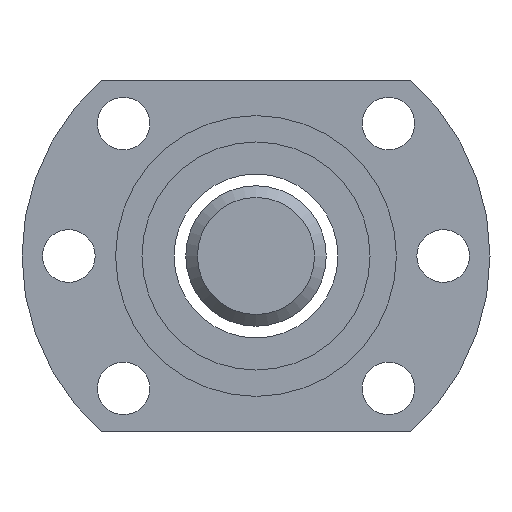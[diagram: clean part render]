
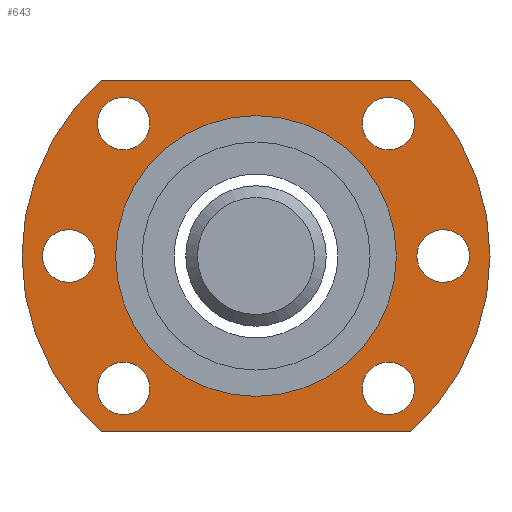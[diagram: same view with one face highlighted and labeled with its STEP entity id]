
A CAD part, left-side view. The second image highlights one B-rep face of the part: STEP entity #643.
In plain terms, the highlighted planar face has unit normal (-1, 0, 0).
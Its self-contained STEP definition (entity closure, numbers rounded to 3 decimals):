
#3 = EDGE_CURVE ( 'NONE', #437, #880, #48, .T. ) ;
#7 = VERTEX_POINT ( 'NONE', #281 ) ;
#15 = CARTESIAN_POINT ( 'NONE',  ( -68.892, -80.181, -34.589 ) ) ;
#28 = CARTESIAN_POINT ( 'NONE',  ( -68.892, -57.554, -34.589 ) ) ;
#35 = DIRECTION ( 'NONE',  ( 0., 0., 1. ) ) ;
#48 = LINE ( 'NONE', #589, #509 ) ;
#50 = CIRCLE ( 'NONE', #206, 2.25 ) ;
#52 = DIRECTION ( 'NONE',  ( 0., 0., 1. ) ) ;
#55 = EDGE_LOOP ( 'NONE', ( #626 ) ) ;
#56 = CARTESIAN_POINT ( 'NONE',  ( -68.892, -55.639, -8.275 ) ) ;
#69 = ORIENTED_EDGE ( 'NONE', *, *, #709, .F. ) ;
#72 = DIRECTION ( 'NONE',  ( 0., 0., -1. ) ) ;
#74 = EDGE_CURVE ( 'NONE', #76, #76, #330, .T. ) ;
#76 = VERTEX_POINT ( 'NONE', #90 ) ;
#82 = EDGE_CURVE ( 'NONE', #1000, #1000, #490, .T. ) ;
#90 = CARTESIAN_POINT ( 'NONE',  ( -68.892, -52.867, -21.025 ) ) ;
#104 = CARTESIAN_POINT ( 'NONE',  ( -68.892, -82.096, -8.275 ) ) ;
#106 = VERTEX_POINT ( 'NONE', #946 ) ;
#121 = ORIENTED_EDGE ( 'NONE', *, *, #3, .T. ) ;
#123 = CARTESIAN_POINT ( 'NONE',  ( -68.892, -57.554, -9.711 ) ) ;
#143 = VERTEX_POINT ( 'NONE', #534 ) ;
#164 = DIRECTION ( 'NONE',  ( -1., 0., 0. ) ) ;
#185 = ORIENTED_EDGE ( 'NONE', *, *, #1047, .T. ) ;
#195 = AXIS2_PLACEMENT_3D ( 'NONE', #1080, #1071, #438 ) ;
#206 = AXIS2_PLACEMENT_3D ( 'NONE', #15, #387, #1030 ) ;
#252 = EDGE_CURVE ( 'NONE', #1110, #1110, #1194, .T. ) ;
#256 = CIRCLE ( 'NONE', #195, 20. ) ;
#281 = CARTESIAN_POINT ( 'NONE',  ( -68.892, -57.554, -32.339 ) ) ;
#296 = DIRECTION ( 'NONE',  ( 0., 0., 1. ) ) ;
#306 = CARTESIAN_POINT ( 'NONE',  ( -68.892, -57.554, -11.961 ) ) ;
#326 = EDGE_LOOP ( 'NONE', ( #69 ) ) ;
#330 = CIRCLE ( 'NONE', #1018, 2.25 ) ;
#353 = CARTESIAN_POINT ( 'NONE',  ( -68.892, -68.867, -23.275 ) ) ;
#359 = FACE_BOUND ( 'NONE', #326, .T. ) ;
#372 = FACE_BOUND ( 'NONE', #55, .T. ) ;
#383 = DIRECTION ( 'NONE',  ( 0., 0., 1. ) ) ;
#384 = CARTESIAN_POINT ( 'NONE',  ( -68.892, -84.867, -21.025 ) ) ;
#385 = AXIS2_PLACEMENT_3D ( 'NONE', #306, #488, #35 ) ;
#387 = DIRECTION ( 'NONE',  ( 1., 0., 0. ) ) ;
#405 = DIRECTION ( 'NONE',  ( -1., 0., 0. ) ) ;
#437 = VERTEX_POINT ( 'NONE', #1076 ) ;
#438 = DIRECTION ( 'NONE',  ( 0., 0., -1. ) ) ;
#442 = CARTESIAN_POINT ( 'NONE',  ( -68.892, -80.181, -9.711 ) ) ;
#443 = ORIENTED_EDGE ( 'NONE', *, *, #543, .T. ) ;
#456 = CARTESIAN_POINT ( 'NONE',  ( -68.892, -68.867, -35.275 ) ) ;
#477 = ORIENTED_EDGE ( 'NONE', *, *, #822, .T. ) ;
#483 = CARTESIAN_POINT ( 'NONE',  ( -68.892, -68.867, -23.275 ) ) ;
#485 = DIRECTION ( 'NONE',  ( 1., 0., 0. ) ) ;
#488 = DIRECTION ( 'NONE',  ( -1., 0., 0. ) ) ;
#490 = CIRCLE ( 'NONE', #975, 12. ) ;
#501 = CIRCLE ( 'NONE', #1190, 20. ) ;
#509 = VECTOR ( 'NONE', #799, 1000. ) ;
#514 = DIRECTION ( 'NONE',  ( 1., 0., 0. ) ) ;
#515 = EDGE_LOOP ( 'NONE', ( #686, #121, #477, #443 ) ) ;
#534 = CARTESIAN_POINT ( 'NONE',  ( -68.892, -82.096, -8.275 ) ) ;
#543 = EDGE_CURVE ( 'NONE', #143, #829, #919, .T. ) ;
#561 = AXIS2_PLACEMENT_3D ( 'NONE', #483, #764, #665 ) ;
#564 = DIRECTION ( 'NONE',  ( -1., 0., 0. ) ) ;
#572 = VERTEX_POINT ( 'NONE', #384 ) ;
#589 = CARTESIAN_POINT ( 'NONE',  ( -68.892, -55.639, -38.275 ) ) ;
#626 = ORIENTED_EDGE ( 'NONE', *, *, #676, .F. ) ;
#643 = ADVANCED_FACE ( 'NONE', ( #924, #1211, #359, #372, #729, #1014, #861, #1055 ), #841, .T. ) ;
#648 = CIRCLE ( 'NONE', #963, 2.25 ) ;
#652 = CIRCLE ( 'NONE', #385, 2.25 ) ;
#660 = ORIENTED_EDGE ( 'NONE', *, *, #252, .T. ) ;
#665 = DIRECTION ( 'NONE',  ( 0., 0., 1. ) ) ;
#676 = EDGE_CURVE ( 'NONE', #854, #854, #652, .T. ) ;
#686 = ORIENTED_EDGE ( 'NONE', *, *, #858, .T. ) ;
#689 = CIRCLE ( 'NONE', #846, 2.25 ) ;
#700 = DIRECTION ( 'NONE',  ( 0., 0., -1. ) ) ;
#709 = EDGE_CURVE ( 'NONE', #7, #7, #689, .T. ) ;
#729 = FACE_BOUND ( 'NONE', #1063, .T. ) ;
#737 = AXIS2_PLACEMENT_3D ( 'NONE', #1137, #485, #296 ) ;
#764 = DIRECTION ( 'NONE',  ( -1., 0., 0. ) ) ;
#784 = CARTESIAN_POINT ( 'NONE',  ( -68.892, -82.096, -38.275 ) ) ;
#799 = DIRECTION ( 'NONE',  ( 0., -1., 0. ) ) ;
#820 = EDGE_LOOP ( 'NONE', ( #1164 ) ) ;
#822 = EDGE_CURVE ( 'NONE', #880, #143, #501, .T. ) ;
#829 = VERTEX_POINT ( 'NONE', #56 ) ;
#835 = EDGE_LOOP ( 'NONE', ( #185 ) ) ;
#841 = PLANE ( 'NONE',  #561 ) ;
#846 = AXIS2_PLACEMENT_3D ( 'NONE', #28, #405, #383 ) ;
#854 = VERTEX_POINT ( 'NONE', #123 ) ;
#858 = EDGE_CURVE ( 'NONE', #829, #437, #256, .T. ) ;
#861 = FACE_BOUND ( 'NONE', #820, .T. ) ;
#880 = VERTEX_POINT ( 'NONE', #784 ) ;
#893 = ORIENTED_EDGE ( 'NONE', *, *, #1163, .T. ) ;
#896 = DIRECTION ( 'NONE',  ( 0., 0., 1. ) ) ;
#919 = LINE ( 'NONE', #104, #1011 ) ;
#924 = FACE_BOUND ( 'NONE', #959, .T. ) ;
#946 = CARTESIAN_POINT ( 'NONE',  ( -68.892, -80.181, -32.339 ) ) ;
#958 = CARTESIAN_POINT ( 'NONE',  ( -68.892, -84.867, -23.275 ) ) ;
#959 = EDGE_LOOP ( 'NONE', ( #660 ) ) ;
#963 = AXIS2_PLACEMENT_3D ( 'NONE', #958, #514, #52 ) ;
#975 = AXIS2_PLACEMENT_3D ( 'NONE', #353, #564, #72 ) ;
#982 = CARTESIAN_POINT ( 'NONE',  ( -68.892, -68.867, -23.275 ) ) ;
#998 = CARTESIAN_POINT ( 'NONE',  ( -68.892, -52.867, -23.275 ) ) ;
#1000 = VERTEX_POINT ( 'NONE', #456 ) ;
#1011 = VECTOR ( 'NONE', #1125, 1000. ) ;
#1014 = FACE_OUTER_BOUND ( 'NONE', #515, .T. ) ;
#1018 = AXIS2_PLACEMENT_3D ( 'NONE', #998, #164, #896 ) ;
#1030 = DIRECTION ( 'NONE',  ( 0., 0., 1. ) ) ;
#1047 = EDGE_CURVE ( 'NONE', #106, #106, #50, .T. ) ;
#1055 = FACE_BOUND ( 'NONE', #1099, .T. ) ;
#1063 = EDGE_LOOP ( 'NONE', ( #1113 ) ) ;
#1071 = DIRECTION ( 'NONE',  ( -1., 0., 0. ) ) ;
#1076 = CARTESIAN_POINT ( 'NONE',  ( -68.892, -55.639, -38.275 ) ) ;
#1080 = CARTESIAN_POINT ( 'NONE',  ( -68.892, -68.867, -23.275 ) ) ;
#1092 = DIRECTION ( 'NONE',  ( -1., 0., 0. ) ) ;
#1099 = EDGE_LOOP ( 'NONE', ( #893 ) ) ;
#1110 = VERTEX_POINT ( 'NONE', #442 ) ;
#1113 = ORIENTED_EDGE ( 'NONE', *, *, #74, .F. ) ;
#1125 = DIRECTION ( 'NONE',  ( 0., 1., 0. ) ) ;
#1137 = CARTESIAN_POINT ( 'NONE',  ( -68.892, -80.181, -11.961 ) ) ;
#1163 = EDGE_CURVE ( 'NONE', #572, #572, #648, .T. ) ;
#1164 = ORIENTED_EDGE ( 'NONE', *, *, #82, .F. ) ;
#1190 = AXIS2_PLACEMENT_3D ( 'NONE', #982, #1092, #700 ) ;
#1194 = CIRCLE ( 'NONE', #737, 2.25 ) ;
#1211 = FACE_BOUND ( 'NONE', #835, .T. ) ;
